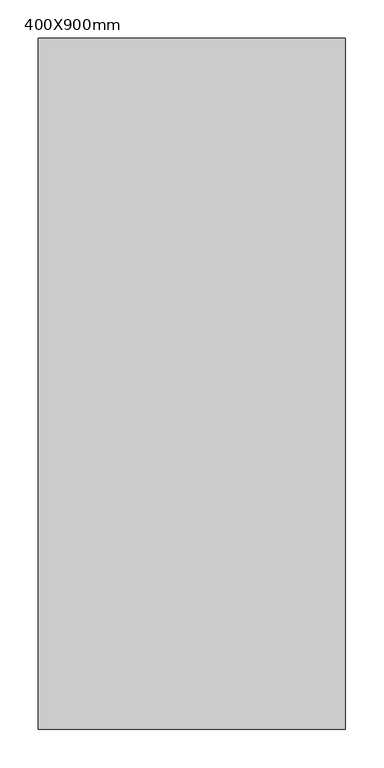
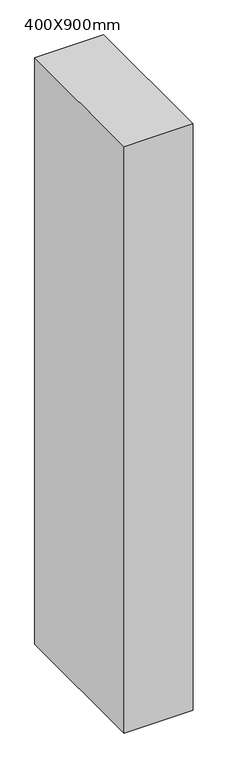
"""IFC4 building model written with IfcOpenShell, lengths in millimetres: column geometry, 混凝土 - 矩形 - 柱 : 400X900mm."""

from ifc_helpers import new_model, si_unit, frame, origin, place, context, project, spatial, polyline, outline, extrude, source, transform, mapped, element, save


def column_400x900mm_e0d5c409(model_context):
    return source(origin(), model_context, "Body", "SweptSolid", [
        extrude(outline(polyline([(200.0, 450.0), (200.0, -450.0), (-200.0, -450.0), (-200.0, 450.0), (200.0, 450.0)])), frame((0.0, 0.0, 7200.0), z_axis=(0.0, 0.0, 1.0), x_axis=(1.0, 0.0, 0.0)), (0.0, 0.0, 1.0), 3600.0),
    ])


if __name__ == "__main__":
    model = new_model("IFC4")
    model_context = context("Model", 3, world=origin())
    ifc_project = project(units=[si_unit("LENGTHUNIT", "METRE", prefix="MILLI")], contexts=[model_context])
    site = spatial("IfcSite", under=ifc_project)
    building = spatial("IfcBuilding", under=site)
    placement = place(None, origin())
    column_400x900mm_shape = column_400x900mm_e0d5c409(model_context)
    element("IfcColumn", 1, ObjectType="混凝土 - 矩形 - 柱 : 400X900mm", at=placement, inside=building, context=model_context, shape_type="MappedRepresentation", body=[
        mapped(column_400x900mm_shape, transform((0.0, 0.0, 0.0), x_axis=(1.0, 0.0, 0.0), y_axis=(0.0, 1.0, 0.0), z_axis=(0.0, 0.0, 1.0))),
    ])
    save(model, "model.ifc")
